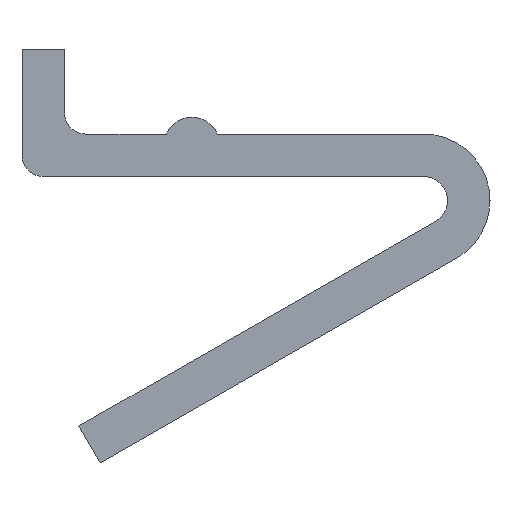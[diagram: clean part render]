
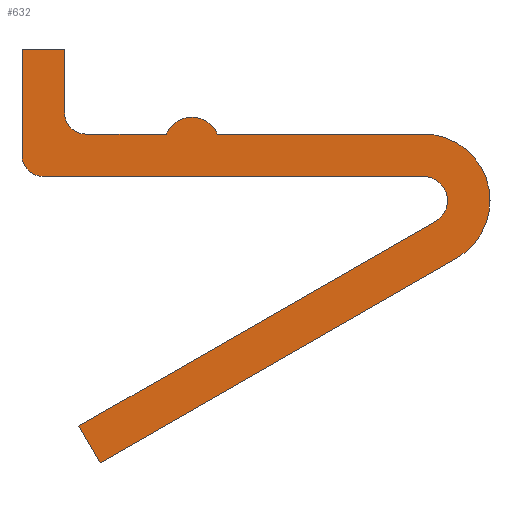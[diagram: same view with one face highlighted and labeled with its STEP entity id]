
A CAD part, left-side view. The second image highlights one B-rep face of the part: STEP entity #632.
In plain terms, the highlighted planar face has unit normal (-1, 0, 0).
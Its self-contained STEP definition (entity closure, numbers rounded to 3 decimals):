
#1 = VECTOR ( 'NONE', #4, 1000. ) ;
#4 = DIRECTION ( 'NONE',  ( 0., -1., 0. ) ) ;
#17 = EDGE_CURVE ( 'NONE', #681, #82, #697, .T. ) ;
#20 = CARTESIAN_POINT ( 'NONE',  ( 0., -3.617, 1.886 ) ) ;
#28 = AXIS2_PLACEMENT_3D ( 'NONE', #810, #234, #499 ) ;
#29 = VERTEX_POINT ( 'NONE', #348 ) ;
#44 = VERTEX_POINT ( 'NONE', #655 ) ;
#48 = VECTOR ( 'NONE', #76, 1000. ) ;
#54 = ORIENTED_EDGE ( 'NONE', *, *, #179, .F. ) ;
#56 = DIRECTION ( 'NONE',  ( 0., -1., 0. ) ) ;
#58 = EDGE_CURVE ( 'NONE', #231, #652, #493, .T. ) ;
#63 = LINE ( 'NONE', #437, #285 ) ;
#71 = ORIENTED_EDGE ( 'NONE', *, *, #555, .F. ) ;
#74 = CARTESIAN_POINT ( 'NONE',  ( 0., 1.518, 3.944 ) ) ;
#76 = DIRECTION ( 'NONE',  ( 0., -1., 0. ) ) ;
#80 = LINE ( 'NONE', #74, #48 ) ;
#82 = VERTEX_POINT ( 'NONE', #534 ) ;
#93 = CIRCLE ( 'NONE', #368, 0.65 ) ;
#104 = CARTESIAN_POINT ( 'NONE',  ( 0., 5.118, 5.944 ) ) ;
#112 = ORIENTED_EDGE ( 'NONE', *, *, #17, .F. ) ;
#115 = ORIENTED_EDGE ( 'NONE', *, *, #416, .F. ) ;
#116 = PLANE ( 'NONE',  #28 ) ;
#117 = CARTESIAN_POINT ( 'NONE',  ( 0., 6.118, 3.444 ) ) ;
#119 = EDGE_CURVE ( 'NONE', #652, #433, #212, .T. ) ;
#121 = FACE_OUTER_BOUND ( 'NONE', #187, .T. ) ;
#122 = EDGE_CURVE ( 'NONE', #592, #562, #726, .T. ) ;
#125 = DIRECTION ( 'NONE',  ( 0., 0.498, 0.867 ) ) ;
#127 = DIRECTION ( 'NONE',  ( 1., 0., 0. ) ) ;
#134 = CARTESIAN_POINT ( 'NONE',  ( 0., 2.118, 3.693 ) ) ;
#144 = CARTESIAN_POINT ( 'NONE',  ( 0., 6.118, 5.944 ) ) ;
#163 = DIRECTION ( 'NONE',  ( 0., 0., -1. ) ) ;
#173 = DIRECTION ( 'NONE',  ( 0., 0., -1. ) ) ;
#179 = EDGE_CURVE ( 'NONE', #468, #215, #80, .T. ) ;
#180 = VERTEX_POINT ( 'NONE', #766 ) ;
#187 = EDGE_LOOP ( 'NONE', ( #791, #115, #71, #543, #112, #648, #718, #669, #548, #54, #613, #312, #677, #480, #771 ) ) ;
#189 = CARTESIAN_POINT ( 'NONE',  ( 0., 4.618, 3.944 ) ) ;
#190 = DIRECTION ( 'NONE',  ( 0., 0., -1. ) ) ;
#204 = AXIS2_PLACEMENT_3D ( 'NONE', #513, #757, #453 ) ;
#212 = CIRCLE ( 'NONE', #660, 0.5 ) ;
#214 = VECTOR ( 'NONE', #56, 1000. ) ;
#215 = VERTEX_POINT ( 'NONE', #689 ) ;
#231 = VERTEX_POINT ( 'NONE', #398 ) ;
#233 = VERTEX_POINT ( 'NONE', #144 ) ;
#234 = DIRECTION ( 'NONE',  ( -1., 0., 0. ) ) ;
#241 = EDGE_CURVE ( 'NONE', #180, #681, #467, .T. ) ;
#243 = VECTOR ( 'NONE', #503, 1000. ) ;
#255 = LINE ( 'NONE', #673, #243 ) ;
#257 = CARTESIAN_POINT ( 'NONE',  ( 0., 6.118, 5.944 ) ) ;
#268 = CARTESIAN_POINT ( 'NONE',  ( 0., 4.28, -3.799 ) ) ;
#285 = VECTOR ( 'NONE', #675, 1000. ) ;
#305 = DIRECTION ( 'NONE',  ( 1., 0., 0. ) ) ;
#312 = ORIENTED_EDGE ( 'NONE', *, *, #122, .F. ) ;
#323 = LINE ( 'NONE', #257, #214 ) ;
#325 = EDGE_CURVE ( 'NONE', #215, #29, #573, .T. ) ;
#328 = VECTOR ( 'NONE', #579, 1000. ) ;
#337 = EDGE_CURVE ( 'NONE', #562, #468, #93, .T. ) ;
#348 = CARTESIAN_POINT ( 'NONE',  ( 0., -4.115, 1.019 ) ) ;
#353 = VERTEX_POINT ( 'NONE', #117 ) ;
#358 = CIRCLE ( 'NONE', #510, 0.5 ) ;
#368 = AXIS2_PLACEMENT_3D ( 'NONE', #377, #305, #173 ) ;
#373 = CARTESIAN_POINT ( 'NONE',  ( 0., 2.717, 3.944 ) ) ;
#376 = CARTESIAN_POINT ( 'NONE',  ( 0., -3.617, 1.886 ) ) ;
#377 = CARTESIAN_POINT ( 'NONE',  ( 0., 2.118, 3.693 ) ) ;
#380 = LINE ( 'NONE', #489, #667 ) ;
#391 = LINE ( 'NONE', #570, #1 ) ;
#398 = CARTESIAN_POINT ( 'NONE',  ( 0., 5.118, 5.944 ) ) ;
#405 = CARTESIAN_POINT ( 'NONE',  ( 0., 5.618, 3.444 ) ) ;
#416 = EDGE_CURVE ( 'NONE', #353, #233, #63, .T. ) ;
#418 = EDGE_CURVE ( 'NONE', #233, #231, #323, .T. ) ;
#423 = LINE ( 'NONE', #656, #775 ) ;
#433 = VERTEX_POINT ( 'NONE', #189 ) ;
#437 = CARTESIAN_POINT ( 'NONE',  ( 0., 6.118, 5.944 ) ) ;
#438 = DIRECTION ( 'NONE',  ( 1., 0., 0. ) ) ;
#447 = VERTEX_POINT ( 'NONE', #268 ) ;
#453 = DIRECTION ( 'NONE',  ( 0., 0., -1. ) ) ;
#467 = LINE ( 'NONE', #20, #328 ) ;
#468 = VERTEX_POINT ( 'NONE', #817 ) ;
#480 = ORIENTED_EDGE ( 'NONE', *, *, #119, .F. ) ;
#489 = CARTESIAN_POINT ( 'NONE',  ( 0., 4.777, -2.932 ) ) ;
#493 = LINE ( 'NONE', #104, #676 ) ;
#499 = DIRECTION ( 'NONE',  ( 0., 0., 1. ) ) ;
#503 = DIRECTION ( 'NONE',  ( 0., 0.867, -0.498 ) ) ;
#510 = AXIS2_PLACEMENT_3D ( 'NONE', #405, #653, #584 ) ;
#513 = CARTESIAN_POINT ( 'NONE',  ( 0., -3.335, 2.377 ) ) ;
#525 = EDGE_CURVE ( 'NONE', #82, #44, #423, .T. ) ;
#534 = CARTESIAN_POINT ( 'NONE',  ( 0., -3.335, 2.944 ) ) ;
#543 = ORIENTED_EDGE ( 'NONE', *, *, #525, .F. ) ;
#544 = CARTESIAN_POINT ( 'NONE',  ( 0., 5.118, 4.444 ) ) ;
#548 = ORIENTED_EDGE ( 'NONE', *, *, #325, .F. ) ;
#554 = CARTESIAN_POINT ( 'NONE',  ( 0., 4.618, 4.444 ) ) ;
#555 = EDGE_CURVE ( 'NONE', #44, #353, #358, .T. ) ;
#562 = VERTEX_POINT ( 'NONE', #596 ) ;
#570 = CARTESIAN_POINT ( 'NONE',  ( 0., 4.618, 3.944 ) ) ;
#573 = CIRCLE ( 'NONE', #601, 1.566 ) ;
#579 = DIRECTION ( 'NONE',  ( 0., -0.867, 0.498 ) ) ;
#584 = DIRECTION ( 'NONE',  ( 0., 0., 1. ) ) ;
#589 = DIRECTION ( 'NONE',  ( 0., 1., 0. ) ) ;
#592 = VERTEX_POINT ( 'NONE', #373 ) ;
#596 = CARTESIAN_POINT ( 'NONE',  ( 0., 2.118, 4.343 ) ) ;
#601 = AXIS2_PLACEMENT_3D ( 'NONE', #678, #127, #803 ) ;
#613 = ORIENTED_EDGE ( 'NONE', *, *, #337, .F. ) ;
#632 = ADVANCED_FACE ( 'NONE', ( #121 ), #116, .T. ) ;
#648 = ORIENTED_EDGE ( 'NONE', *, *, #241, .F. ) ;
#652 = VERTEX_POINT ( 'NONE', #544 ) ;
#653 = DIRECTION ( 'NONE',  ( 1., 0., 0. ) ) ;
#655 = CARTESIAN_POINT ( 'NONE',  ( 0., 5.618, 2.944 ) ) ;
#656 = CARTESIAN_POINT ( 'NONE',  ( 0., 5.618, 2.944 ) ) ;
#660 = AXIS2_PLACEMENT_3D ( 'NONE', #554, #746, #731 ) ;
#667 = VECTOR ( 'NONE', #125, 1000. ) ;
#669 = ORIENTED_EDGE ( 'NONE', *, *, #684, .F. ) ;
#673 = CARTESIAN_POINT ( 'NONE',  ( 0., -4.115, 1.019 ) ) ;
#675 = DIRECTION ( 'NONE',  ( 0., 0., 1. ) ) ;
#676 = VECTOR ( 'NONE', #163, 1000. ) ;
#677 = ORIENTED_EDGE ( 'NONE', *, *, #808, .F. ) ;
#678 = CARTESIAN_POINT ( 'NONE',  ( 0., -3.335, 2.377 ) ) ;
#681 = VERTEX_POINT ( 'NONE', #376 ) ;
#684 = EDGE_CURVE ( 'NONE', #29, #447, #255, .T. ) ;
#689 = CARTESIAN_POINT ( 'NONE',  ( 0., -3.335, 3.944 ) ) ;
#695 = EDGE_CURVE ( 'NONE', #447, #180, #380, .T. ) ;
#697 = CIRCLE ( 'NONE', #204, 0.566 ) ;
#718 = ORIENTED_EDGE ( 'NONE', *, *, #695, .F. ) ;
#726 = CIRCLE ( 'NONE', #743, 0.65 ) ;
#731 = DIRECTION ( 'NONE',  ( 0., 0., 1. ) ) ;
#743 = AXIS2_PLACEMENT_3D ( 'NONE', #134, #438, #190 ) ;
#746 = DIRECTION ( 'NONE',  ( -1., 0., 0. ) ) ;
#757 = DIRECTION ( 'NONE',  ( -1., 0., 0. ) ) ;
#766 = CARTESIAN_POINT ( 'NONE',  ( 0., 4.777, -2.932 ) ) ;
#771 = ORIENTED_EDGE ( 'NONE', *, *, #58, .F. ) ;
#775 = VECTOR ( 'NONE', #589, 1000. ) ;
#791 = ORIENTED_EDGE ( 'NONE', *, *, #418, .F. ) ;
#803 = DIRECTION ( 'NONE',  ( 0., 0., -1. ) ) ;
#808 = EDGE_CURVE ( 'NONE', #433, #592, #391, .T. ) ;
#810 = CARTESIAN_POINT ( 'NONE',  ( 0., 4.618, 4.444 ) ) ;
#817 = CARTESIAN_POINT ( 'NONE',  ( 0., 1.518, 3.944 ) ) ;
